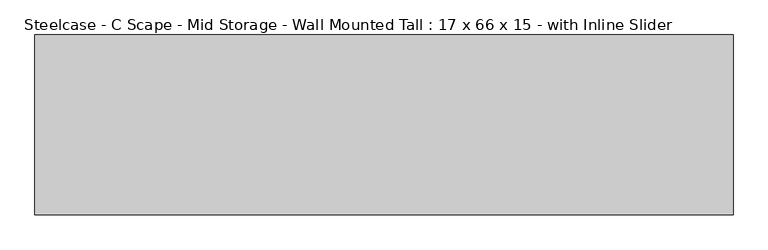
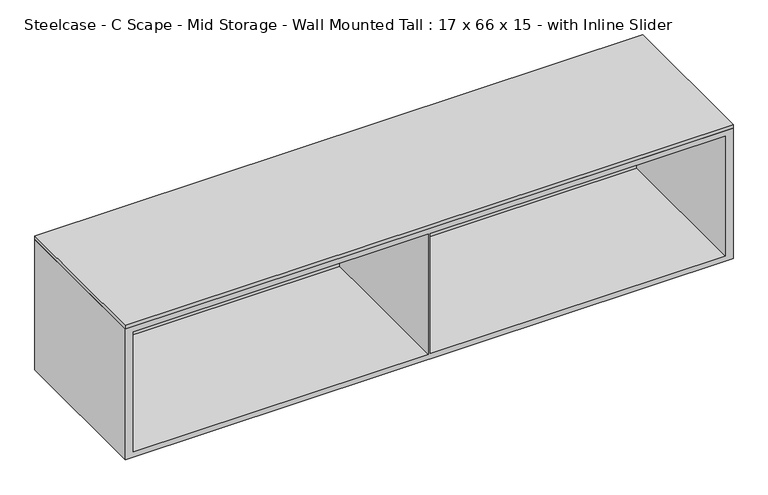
"""IFC4 building model written with IfcOpenShell, lengths in millimetres: furniture geometry, Steelcase - C Scape - Mid Storage - Wall Mounted Tall : 17 x 66 x 15 - with Inline Slider."""

from ifc_helpers import new_model, si_unit, frame, origin, place, context, project, spatial, polyline, outline, extrude, faceted_brep, source, transform, mapped, element, save


def steelcase_c_scape_mid_storage_wall_mounted_tall_17_x_66_x_15_6ccdab90(model_context):
    return source(origin(), model_context, "Body", "SolidModel", [
        extrude(outline(polyline([(1676.4, 215.9), (1676.4, -215.9), (0.0, -215.9), (0.0, 215.9), (1676.4, 215.9)])), frame((0.0, 0.0, 1219.2), z_axis=(0.0, 0.0, 1.0), x_axis=(1.0, 0.0, 0.0)), (0.0, 0.0, 1.0), 10.16),
        faceted_brep([(0.0, -215.9, 1219.2), (0.0, -215.9, 838.2), (1676.4, -215.9, 838.2), (1676.4, -215.9, 1219.2), (21.9711633, -215.9, 1203.96), (835.025, -215.9, 1203.96), (835.025, -215.9, 853.4399855), (21.9711633, -215.9, 853.4399855), (1654.302, -215.9, 1203.96), (1654.302, -215.9, 853.4399855), (841.375, -215.9, 853.4399855), (841.375, -215.9, 1203.96), (1676.4, 215.9, 1219.2), (1676.4, 215.9, 838.2), (0.0, 215.9, 838.2), (0.0, 215.9, 1219.2), (1654.302, 206.3755809, 1203.96), (1654.302, 206.3755809, 853.4399855), (835.025, 206.3755809, 853.4399855), (21.9711633, 206.3755809, 853.4399855), (841.375, 206.3755809, 853.4399855), (21.9711633, 206.3755809, 1203.96), (835.025, 206.3755809, 1203.96), (841.375, 206.3755809, 1203.96)], [[[0, 1, 2, 3], [4, 5, 6, 7], [8, 9, 10, 11]], [[12, 13, 14, 15]], [[0, 3, 12, 15]], [[1, 0, 15, 14]], [[2, 1, 14, 13]], [[3, 2, 13, 12]], [[9, 8, 16, 17]], [[7, 6, 18, 19]], [[10, 9, 17, 20]], [[4, 7, 19, 21]], [[5, 4, 21, 22]], [[8, 11, 23, 16]], [[18, 22, 21, 19]], [[6, 5, 22, 18]], [[11, 10, 20, 23]], [[23, 20, 17, 16]]]),
    ])


if __name__ == "__main__":
    model = new_model("IFC4")
    model_context = context("Model", 3, world=origin())
    ifc_project = project(units=[si_unit("LENGTHUNIT", "METRE", prefix="MILLI")], contexts=[model_context])
    site = spatial("IfcSite", under=ifc_project)
    building = spatial("IfcBuilding", under=site)
    placement = place(None, origin())
    steelcase_c_scape_mid_storage_wall_mounted_tall_17_x_66_x_15_shape = steelcase_c_scape_mid_storage_wall_mounted_tall_17_x_66_x_15_6ccdab90(model_context)
    element("IfcFurniture", 1, ObjectType="Steelcase - C Scape - Mid Storage - Wall Mounted Tall : 17 x 66 x 15 - with Inline Slider", at=placement, inside=building, context=model_context, shape_type="MappedRepresentation", body=[
        mapped(steelcase_c_scape_mid_storage_wall_mounted_tall_17_x_66_x_15_shape, transform((0.0, 0.0, 0.0), x_axis=(1.0, 0.0, 0.0), y_axis=(0.0, 1.0, 0.0), z_axis=(0.0, 0.0, 1.0))),
    ])
    save(model, "model.ifc")
